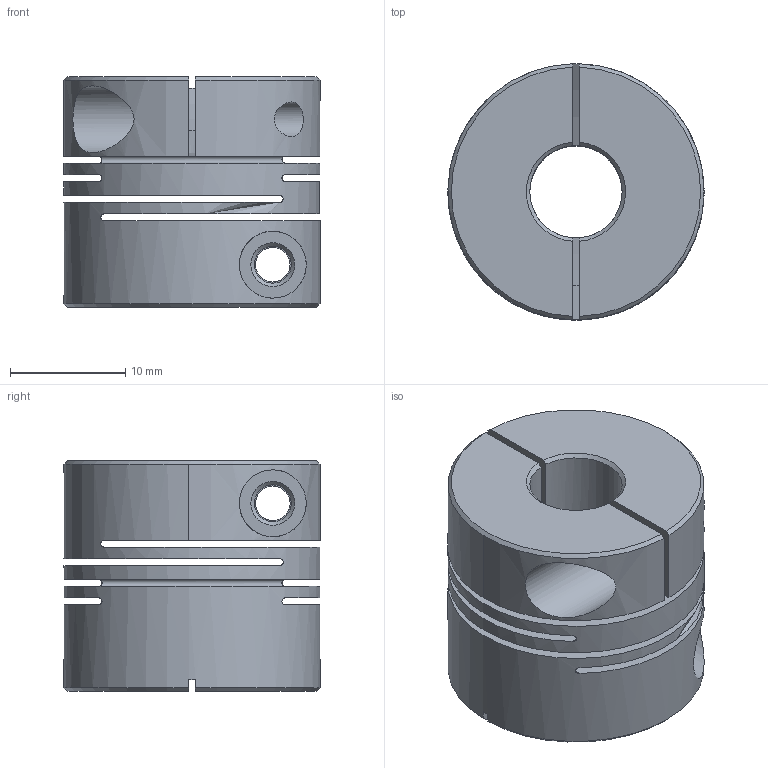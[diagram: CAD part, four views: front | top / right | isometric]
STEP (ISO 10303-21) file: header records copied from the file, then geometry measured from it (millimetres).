
FILE_DESCRIPTION( ( 'Unknown' ), '1' );
FILE_NAME( 'D:/3D/目敲傅/SRBM Type/C Type/SRBM-22C.stp', 'Unknown', ( 'Unknown' ), ( 'Unknown' ), 'XStep 1.0', 'Unknown', ' ' );
FILE_SCHEMA( ( 'CONFIG_CONTROL_DESIGN' ) );
Length unit declared in the file: millimetre
Products named in the file (1): 1
Bounding box: 22.2 x 22.2 x 20 mm (x, y, z)
Volume: 5355.9 mm3; surface area: 5327.2 mm2
Topology: 1 solids, 1 shells, 59 faces, 166 edges, 112 vertices
Faces by surface type: plane 25, cylinder 24, cone 10
Full cylindrical faces by diameter (mm): 3 x2, 3.2 x4, 5.8 x2, 8 x2, 9 x4, 22.2 x1
Entity records: 2072 total; most frequent: CARTESIAN_POINT 669, DIRECTION 272, ORIENTED_EDGE 260, EDGE_CURVE 130, AXIS2_PLACEMENT_3D 117, EDGE_LOOP 98, VERTEX_POINT 96, FACE_OUTER_BOUND 73
